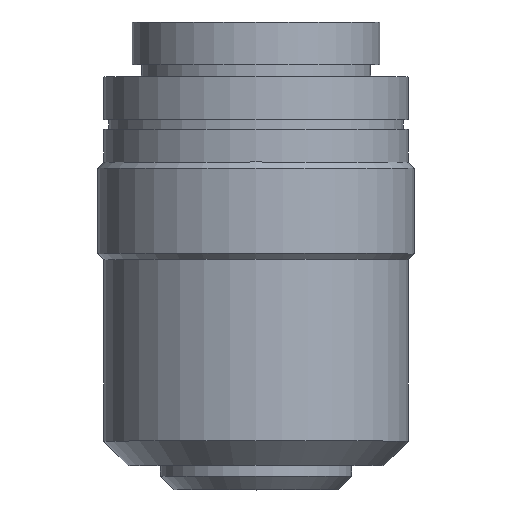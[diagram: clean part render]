
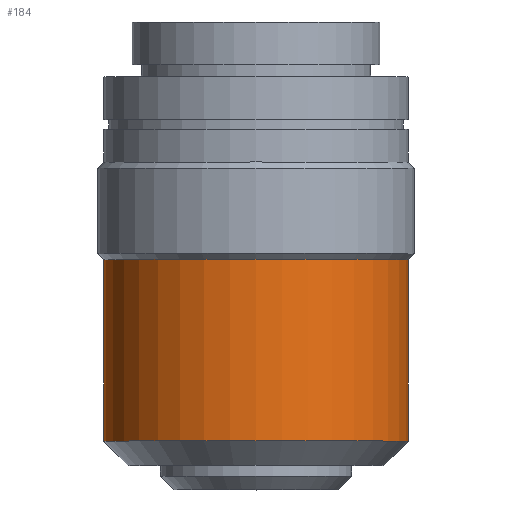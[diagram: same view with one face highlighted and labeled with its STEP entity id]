
A CAD part, top view. The second image highlights one B-rep face of the part: STEP entity #184.
In plain terms, the highlighted cylindrical face has radius 12.5 mm (diameter 25 mm), a full revolution.
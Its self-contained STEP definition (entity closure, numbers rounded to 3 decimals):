
#150=CARTESIAN_POINT('',(-12.5,-34.4,0.0));
#151=VERTEX_POINT('',#150);
#152=CARTESIAN_POINT('',(0.0,-34.4,0.0));
#153=DIRECTION('',(0.0,1.0,0.0));
#154=DIRECTION('',(-1.0,0.0,0.0));
#155=AXIS2_PLACEMENT_3D('',#152,#153,#154);
#156=CIRCLE('',#155,12.5);
#157=EDGE_CURVE('',#151,#151,#156,.T.);
#165=CARTESIAN_POINT('',(0.0,-26.95,0.0));
#166=DIRECTION('',(0.0,1.0,0.0));
#167=DIRECTION('',(-1.0,0.0,0.0));
#168=AXIS2_PLACEMENT_3D('',#165,#166,#167);
#169=CYLINDRICAL_SURFACE('',#168,12.5);
#170=CARTESIAN_POINT('',(-12.5,-19.5,0.0));
#171=VERTEX_POINT('',#170);
#172=CARTESIAN_POINT('',(0.0,-19.5,0.0));
#173=DIRECTION('',(0.0,1.0,0.0));
#174=DIRECTION('',(-1.0,0.0,0.0));
#175=AXIS2_PLACEMENT_3D('',#172,#173,#174);
#176=CIRCLE('',#175,12.5);
#177=EDGE_CURVE('',#171,#171,#176,.T.);
#178=ORIENTED_EDGE('',*,*,#177,.F.);
#179=EDGE_LOOP('',(#178));
#180=FACE_OUTER_BOUND('',#179,.T.);
#181=ORIENTED_EDGE('',*,*,#157,.T.);
#182=EDGE_LOOP('',(#181));
#183=FACE_BOUND('',#182,.T.);
#184=ADVANCED_FACE('',(#180,#183),#169,.T.);
